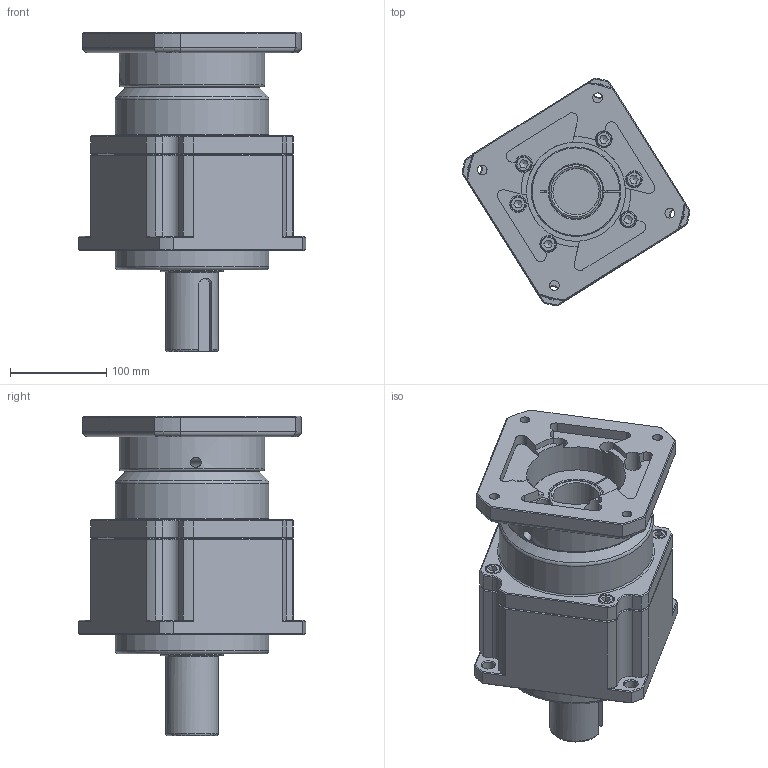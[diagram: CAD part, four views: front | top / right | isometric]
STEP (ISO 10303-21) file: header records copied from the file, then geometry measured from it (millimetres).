
FILE_DESCRIPTION((''),'2;1');
FILE_NAME('C:\인벤터교육\SPI180S003KA\SPI180S003~010KA.stp','2009-11-12T09:53:43',('choejs'),(''),'Autodesk Inventor 2010','Autodesk Inventor 2010','');
FILE_SCHEMA(('AUTOMOTIVE_DESIGN { 1 0 10303 214 1 1 1 1 }'));
Length unit declared in the file: millimetre
Products named in the file (6): SPI180S003KA 조립도; CLAMP RING(ㅁ180); Input adapter Flange(ㅁ180); INPUT CASE(ㅁ180); OUTPUT CASE(ㅁ180); KS B 1003 - M 10 x 20
Assembly tree (14 placements, depth 2):
  SPI180S003KA 조립도
    CLAMP RING(ㅁ180)
    Input adapter Flange(ㅁ180)
    INPUT CASE(ㅁ180)
    OUTPUT CASE(ㅁ180)
    KS B 1003 - M 10 x 20  x10
Bounding box: 236.8 x 236.8 x 331.5 mm (x, y, z)
Volume: 5585004.8 mm3; surface area: 430544.7 mm2
Topology: 14 solids, 14 shells, 476 faces, 1092 edges, 673 vertices
Faces by surface type: plane 236, cylinder 111, cone 84, torus 25, bspline 20
Full cylindrical faces by diameter (mm): 10 x10, 10.106 x1, 11 x10, 13 x4, 16 x10, 17 x4, 17.5 x6, 48 x1, 55 x2, 56 x1, 64.7 x2, 103 x1, 109 x2, 140 x1, 151 x1, 160 x2, 165 x1
Entity records: 10077 total; most frequent: CARTESIAN_POINT 2332, DIRECTION 1609, ORIENTED_EDGE 1440, EDGE_CURVE 720, AXIS2_PLACEMENT_3D 643, VERTEX_POINT 483, EDGE_LOOP 475, FACE_OUTER_BOUND 341
